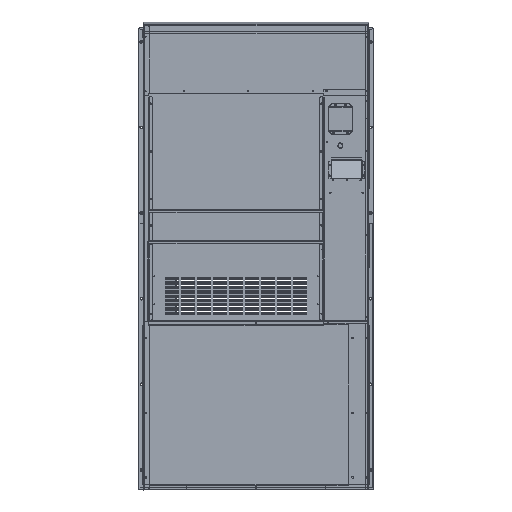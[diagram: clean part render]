
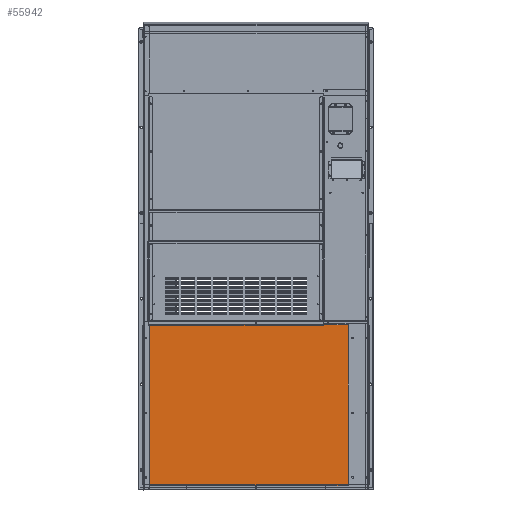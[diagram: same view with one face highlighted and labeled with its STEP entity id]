
A CAD part, top view. The second image highlights one B-rep face of the part: STEP entity #55942.
In plain terms, the highlighted planar face has unit normal (0, 0, 1).
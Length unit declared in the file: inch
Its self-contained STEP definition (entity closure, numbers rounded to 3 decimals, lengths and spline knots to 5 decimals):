
#106 = ORIENTED_EDGE ( 'NONE', *, *, #58357, .F. ) ;
#1269 = VECTOR ( 'NONE', #21399, 39.37008 ) ;
#2999 = EDGE_LOOP ( 'NONE', ( #38845, #50695, #106, #11432 ) ) ;
#3227 = VECTOR ( 'NONE', #5387, 39.37008 ) ;
#4663 = CARTESIAN_POINT ( 'NONE',  ( 9.60241, 0.41414, -123.55366 ) ) ;
#5387 = DIRECTION ( 'NONE',  ( 0., -1., 0. ) ) ;
#5794 = CARTESIAN_POINT ( 'NONE',  ( 46.67541, 30.46814, -123.55366 ) ) ;
#9966 = EDGE_CURVE ( 'NONE', #24890, #63641, #48065, .T. ) ;
#11432 = ORIENTED_EDGE ( 'NONE', *, *, #21700, .F. ) ;
#14550 = DIRECTION ( 'NONE',  ( -1., 0., 0. ) ) ;
#21399 = DIRECTION ( 'NONE',  ( 1., 0., 0. ) ) ;
#21700 = EDGE_CURVE ( 'NONE', #63641, #63165, #44865, .T. ) ;
#22888 = CARTESIAN_POINT ( 'NONE',  ( 46.67541, 30.46814, -123.55366 ) ) ;
#24890 = VERTEX_POINT ( 'NONE', #4663 ) ;
#30584 = VERTEX_POINT ( 'NONE', #45804 ) ;
#38845 = ORIENTED_EDGE ( 'NONE', *, *, #9966, .F. ) ;
#39292 = CARTESIAN_POINT ( 'NONE',  ( 9.60241, 0.41414, -123.55366 ) ) ;
#43504 = FACE_OUTER_BOUND ( 'NONE', #2999, .T. ) ;
#44865 = LINE ( 'NONE', #73647, #1269 ) ;
#45804 = CARTESIAN_POINT ( 'NONE',  ( 46.67541, 0.41414, -123.55366 ) ) ;
#48065 = LINE ( 'NONE', #110477, #71324 ) ;
#50695 = ORIENTED_EDGE ( 'NONE', *, *, #77441, .F. ) ;
#51242 = CARTESIAN_POINT ( 'NONE',  ( 9.60241, 30.46814, -123.55366 ) ) ;
#55942 = ADVANCED_FACE ( 'NONE', ( #43504 ), #75178, .F. ) ;
#58242 = DIRECTION ( 'NONE',  ( 0., 1., 0. ) ) ;
#58357 = EDGE_CURVE ( 'NONE', #63165, #30584, #95925, .T. ) ;
#63165 = VERTEX_POINT ( 'NONE', #78017 ) ;
#63641 = VERTEX_POINT ( 'NONE', #51242 ) ;
#65305 = DIRECTION ( 'NONE',  ( -1., 0., 0. ) ) ;
#66780 = DIRECTION ( 'NONE',  ( 0., 0., -1. ) ) ;
#71324 = VECTOR ( 'NONE', #58242, 39.37008 ) ;
#73647 = CARTESIAN_POINT ( 'NONE',  ( 9.60241, 30.46814, -123.55366 ) ) ;
#75178 = PLANE ( 'NONE',  #102336 ) ;
#76233 = VECTOR ( 'NONE', #65305, 39.37008 ) ;
#77441 = EDGE_CURVE ( 'NONE', #30584, #24890, #102081, .T. ) ;
#78017 = CARTESIAN_POINT ( 'NONE',  ( 46.67541, 30.46814, -123.55366 ) ) ;
#95925 = LINE ( 'NONE', #22888, #3227 ) ;
#102081 = LINE ( 'NONE', #39292, #76233 ) ;
#102336 = AXIS2_PLACEMENT_3D ( 'NONE', #5794, #66780, #14550 ) ;
#110477 = CARTESIAN_POINT ( 'NONE',  ( 9.60241, 30.46814, -123.55366 ) ) ;
